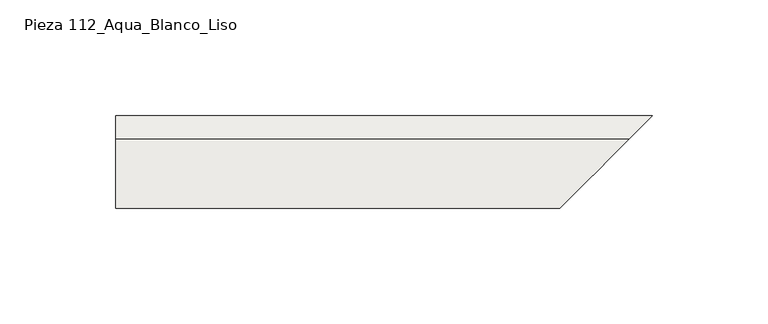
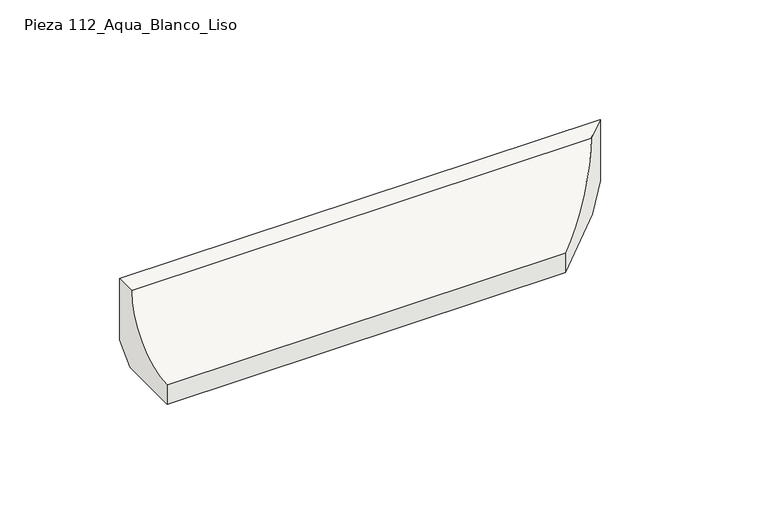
"""IFC4 building model written with IfcOpenShell, lengths in millimetres: slab geometry, ROSA GRES_112 (corte) : Pieza 112_Aqua_Blanco_Liso."""

from ifc_helpers import new_model, si_unit, frame, origin, place, context, project, spatial, polyline, circle_curve, ellipse_curve, source, transform, mapped, element, save
from ifc_brep_helpers import plane_surface, revolved_surface, advanced_brep


def pieza_112_aqua_blanco_liso_23b11aa6(model_context):
    return source(origin(), model_context, "Body", "AdvancedBrep", [
        advanced_brep(
        [(0.0, 0.0, 8.7114978), (0.0, -8.7114978, 0.0), (0.0, -40.0, 0.0), (0.0, -40.0, 9.9734114), (0.0, -9.9734114, 40.0), (0.0, 0.0, 40.0), (232.2, 0.0, 40.0), (232.2, 0.0, 8.7114978), (222.2265886, -9.9734114, 40.0), (192.2, -40.0, 9.9734114), (192.2, -40.0, 0.0), (223.4885022, -8.7114978, 0.0)],
        [
            (0, 1),
            (1, 2),
            (2, 3),
            (3, 4, circle_curve(frame((0.0, -39.9955547, 39.9955547), z_axis=(1.0, 0.0, 0.0), x_axis=(0.0, -1.0, 0.0)), 30.0221435)),
            (4, 5),
            (5, 0),
            (5, 6),
            (6, 7),
            (7, 0),
            (4, 8),
            (8, 6),
            (3, 9),
            (9, 8, ellipse_curve(frame((192.2044453, -39.9955547, 39.9955547), z_axis=(0.7071067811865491, -0.707106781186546, 0.0), x_axis=(0.7071067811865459, 0.7071067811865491, 0.0)), 42.4577226, 30.0221435)),
            (2, 10),
            (10, 9),
            (1, 11),
            (11, 10),
            (7, 11),
        ],
        [
            plane_surface(frame((0.0, 0.0, 0.0), z_axis=(-1.0, 0.0, 0.0), x_axis=(0.0, 0.0, 1.0))),
            plane_surface(frame((0.0, 0.0, 8.7114978), z_axis=(0.0, 1.0, 0.0), x_axis=(1.0, 0.0, 0.0))),
            plane_surface(frame((0.0, 0.0, 40.0), z_axis=(0.0, 0.0, 1.0), x_axis=(1.0, 0.0, 0.0))),
            revolved_surface(polyline([(222.22658886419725, -70.0176982, 39.9955547), (0.0, -70.0176982, 39.9955547)]), (0.0, -39.9955547, 39.9955547), (1.0, 0.0, 0.0)),
            plane_surface(frame((0.0, -40.0, 9.9734114), z_axis=(0.0, -1.0, 0.0), x_axis=(1.0, 0.0, 0.0))),
            plane_surface(frame((0.0, -40.0, 0.0), z_axis=(0.0, 0.0, -1.0), x_axis=(1.0, 0.0, 0.0))),
            plane_surface(frame((0.0, -8.7114978, 0.0), z_axis=(0.0, 0.7071067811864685, -0.7071067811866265), x_axis=(1.0, 0.0, 0.0))),
            plane_surface(frame((191.7, -40.5, 104.9871832), z_axis=(0.7071067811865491, -0.707106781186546, 0.0), x_axis=(0.0, 0.0, -1.0))),
        ],
        [
            (0, [[1, 2, 3, 4, 5, 6]]),
            (1, [[7, 8, 9, -6]]),
            (2, [[10, 11, -7, -5]]),
            (3, [[12, 13, -10, -4]]),
            (4, [[14, 15, -12, -3]]),
            (5, [[16, 17, -14, -2]]),
            (6, [[-9, 18, -16, -1]]),
            (7, [[-11, -13, -15, -17, -18, -8]]),
        ],
    ),
    ])


if __name__ == "__main__":
    model = new_model("IFC4")
    model_context = context("Model", 3, world=origin())
    ifc_project = project(units=[si_unit("LENGTHUNIT", "METRE", prefix="MILLI")], contexts=[model_context])
    site = spatial("IfcSite", under=ifc_project)
    building = spatial("IfcBuilding", under=site)
    placement = place(None, origin())
    pieza_112_aqua_blanco_liso_shape = pieza_112_aqua_blanco_liso_23b11aa6(model_context)
    element("IfcSlab", 1, ObjectType="ROSA GRES_112 (corte) : Pieza 112_Aqua_Blanco_Liso", at=placement, inside=building, context=model_context, shape_type="MappedRepresentation", body=[
        mapped(pieza_112_aqua_blanco_liso_shape, transform((0.0, 0.0, 0.0), x_axis=(1.0, 0.0, 0.0), y_axis=(0.0, 1.0, 0.0), z_axis=(0.0, 0.0, 1.0))),
    ])
    save(model, "model.ifc")
